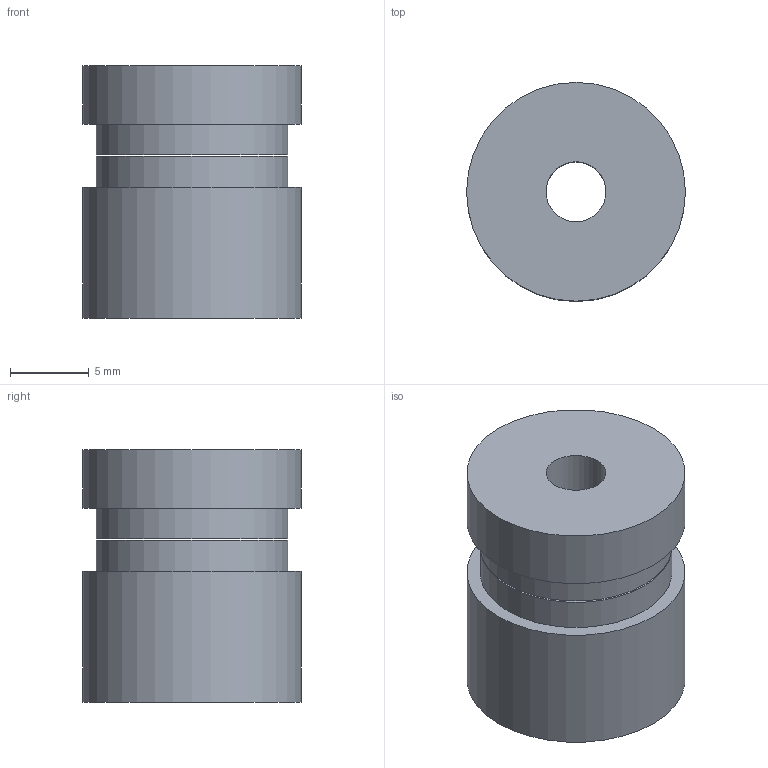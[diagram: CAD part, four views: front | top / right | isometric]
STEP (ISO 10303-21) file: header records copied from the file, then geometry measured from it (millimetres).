
FILE_DESCRIPTION(/* description */ ('CAx-IF Rec.Pracs.---Representation and Presentation of Product Manufacturing Information (PMI)---4.0---2014-10-13','CAx-IF Rec.Pracs.---3D Tessellated Geometry---0.4---2014-09-14','2;1'),/* implementation_level */ '2;1');
FILE_NAME(/* name */ 'qc1_p29',/* time_stamp */ '2026-07-26T01:09:25+03:00',/* author */ (''),/* organization */ (''),/* preprocessor_version */ 'ST-DEVELOPER v19.4',/* originating_system */ 'SIEMENS PLM Software NX2306.1700',/* authorisation */ $);
FILE_SCHEMA (('AP242_MANAGED_MODEL_BASED_3D_ENGINEERING_MIM_LF { 1 0 10303 442 3 1 4 }'));
Length unit declared in the file: millimetre
Products named in the file (1): qc1_p29
Bounding box: 13.86 x 13.86 x 16 mm (x, y, z)
Volume: 2083.1 mm3; surface area: 1419.4 mm2
Topology: 2 solids, 2 shells, 12 faces, 20 edges, 14 vertices
Faces by surface type: plane 6, cylinder 6
Full cylindrical faces by diameter (mm): 3.8 x2, 12.16 x2, 13.86 x2
Entity records: 279 total; most frequent: DIRECTION 50, CARTESIAN_POINT 37, AXIS2_PLACEMENT_3D 25, ORIENTED_EDGE 24, EDGE_LOOP 24, FACE_BOUND 24, EDGE_CURVE 12, VERTEX_POINT 12
